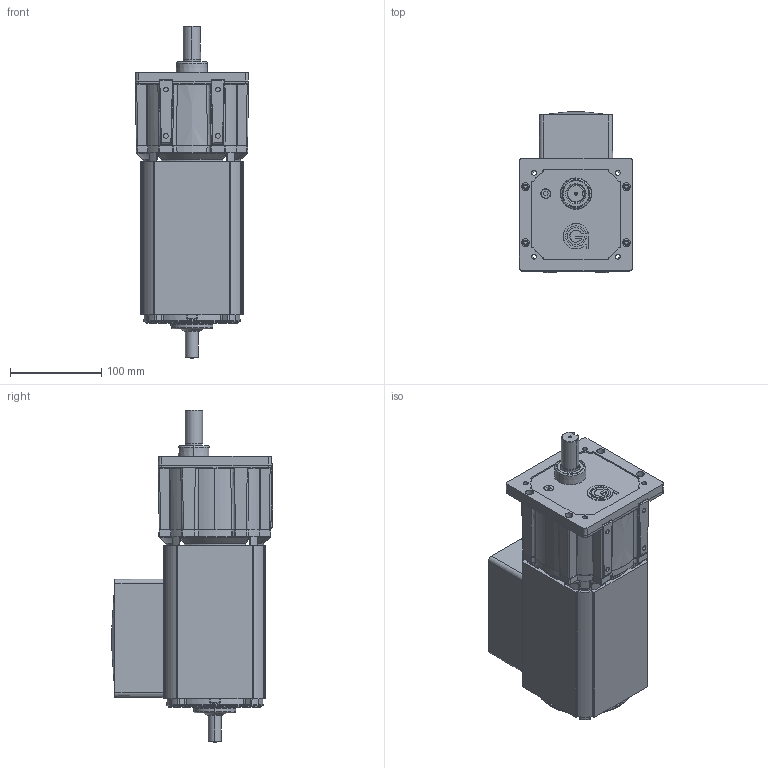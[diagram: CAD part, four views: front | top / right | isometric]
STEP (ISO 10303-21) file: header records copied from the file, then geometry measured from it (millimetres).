
FILE_DESCRIPTION (( 'STEP AP214' ), '1' );
FILE_NAME ('AC10080NV-PS2300.STEP', '2016-04-28T16:10:44', ( '' ), ( '' ), 'SwSTEP 2.0', 'SolidWorks 2015', '' );
FILE_SCHEMA (( 'AUTOMOTIVE_DESIGN' ));
Length unit declared in the file: millimetre
Products named in the file (1): AC10080NV-PS2300
Bounding box: 124.53 x 177.16 x 364.47 mm (x, y, z)
Surface area: 302584.7 mm2 (no closed solid volume)
Topology: 0 solids, 32 shells, 967 faces, 2955 edges, 1956 vertices
Faces by surface type: plane 258, cylinder 254, bspline 174, cone 146, torus 115, sphere 20
Entity records: 50759 total; most frequent: CARTESIAN_POINT 15361, ORIENTED_EDGE 5047, DIRECTION 5018, EDGE_CURVE 2939, AXIS2_PLACEMENT_3D 2002, VERTEX_POINT 1948, CIRCLE 1208, EDGE_LOOP 1055
